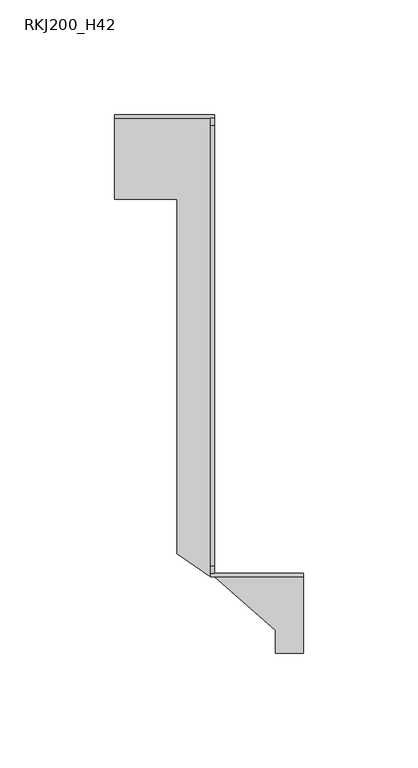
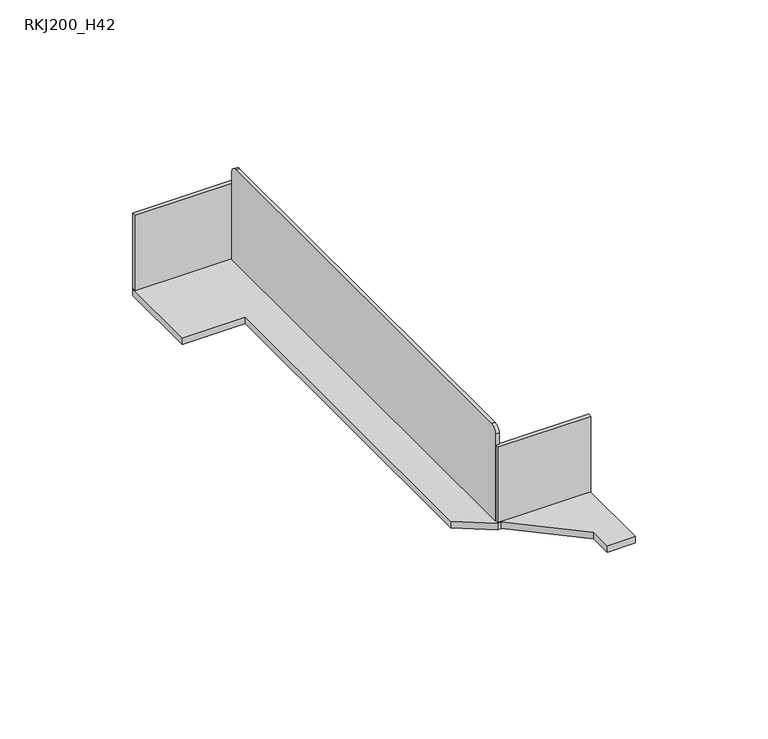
"""IFC4 building model written with IfcOpenShell, lengths in millimetres: cable carrier fitting geometry, BAKS_SUB_Reduction angular : RKJ200_H42."""

from ifc_helpers import new_model, si_unit, point, frame, frame_2d, origin, origin_with_axes, place, context, project, spatial, polyline, circle_curve, trimmed, segment, composite_curve, outline, extrude, source, transform, mapped, element, save


def rkj200_h42_0f858a6a(model_context):
    return source(origin(), model_context, "Body", "SweptSolid", [
        extrude(outline(polyline([(40.5, -233.375), (28.2962179, -233.375), (28.2962179, -223.375), (1.625, -200.0), (1.625, -198.375), (40.5, -198.375), (40.5, -233.375)])), frame((0.0, 0.0, -3.0), z_axis=(0.0, 0.0, 1.0), x_axis=(1.0, 0.0, 0.0)), (0.0, 0.0, 1.0), 3.0),
        extrude(outline(composite_curve([segment(trimmed(circle_curve(frame_2d((-3.0, 40.0)), 3.0), [point((-3.0, 43.0))], [point((0.0, 40.0))], False, "CARTESIAN"), True, "CONTINUOUS"), segment(polyline([(0.0, 40.0), (0.0, 0.0), (-198.375, 0.0), (-198.375, 40.0)]), True, "CONTINUOUS"), segment(trimmed(circle_curve(frame_2d((-195.375, 40.0)), 3.0), [point((-198.375, 40.0))], [point((-195.375, 43.0))], False, "CARTESIAN"), True, "CONTINUOUS"), segment(polyline([(-195.375, 43.0), (-3.0, 43.0)]), True, "CONTINUOUS")], self_intersect=False)), frame((0.0, 0.0, 0.0), z_axis=(1.0, 0.0, 0.0), x_axis=(0.0, 1.0, 0.0)), (0.0, 0.0, 1.0), 1.625),
        extrude(outline(polyline([(-14.655422, -190.0), (-14.655422, -35.375), (-42.0, -35.375), (-42.0, 1.625), (1.625, 1.625), (1.625, -200.0), (0.0, -200.0), (-14.655422, -190.0)])), frame((0.0, 0.0, -3.0), z_axis=(0.0, 0.0, 1.0), x_axis=(1.0, 0.0, 0.0)), (0.0, 0.0, 1.0), 3.0),
        extrude(outline(polyline([(0.0, -200.0), (0.0, -198.375), (40.5, -198.375), (40.5, -200.0), (0.0, -200.0)])), origin_with_axes(), (0.0, 0.0, 1.0), 35.0),
        extrude(outline(polyline([(1.625, 0.0), (-42.0, 0.0), (-42.0, 1.625), (1.625, 1.625), (1.625, 0.0)])), origin_with_axes(), (0.0, 0.0, 1.0), 35.0),
    ])


if __name__ == "__main__":
    model = new_model("IFC4")
    model_context = context("Model", 3, world=origin())
    ifc_project = project(units=[si_unit("LENGTHUNIT", "METRE", prefix="MILLI")], contexts=[model_context])
    site = spatial("IfcSite", under=ifc_project)
    building = spatial("IfcBuilding", under=site)
    placement = place(None, origin())
    rkj200_h42_shape = rkj200_h42_0f858a6a(model_context)
    element("IfcCableCarrierFitting", 1, ObjectType="BAKS_SUB_Reduction angular : RKJ200_H42", at=placement, inside=building, context=model_context, shape_type="MappedRepresentation", body=[
        mapped(rkj200_h42_shape, transform((0.0, 0.0, 0.0), x_axis=(1.0, 0.0, 0.0), y_axis=(0.0, 1.0, 0.0), z_axis=(0.0, 0.0, 1.0))),
    ])
    save(model, "model.ifc")
